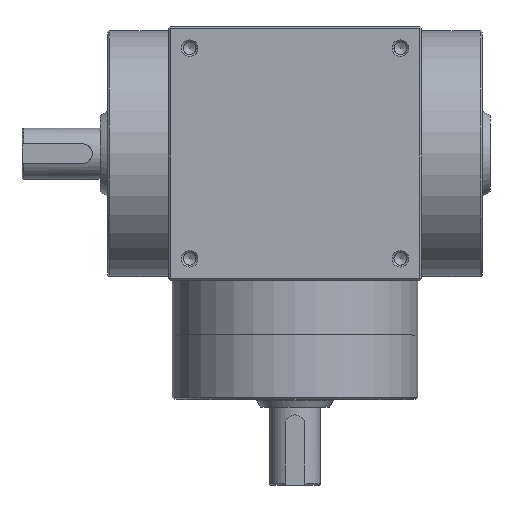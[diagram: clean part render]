
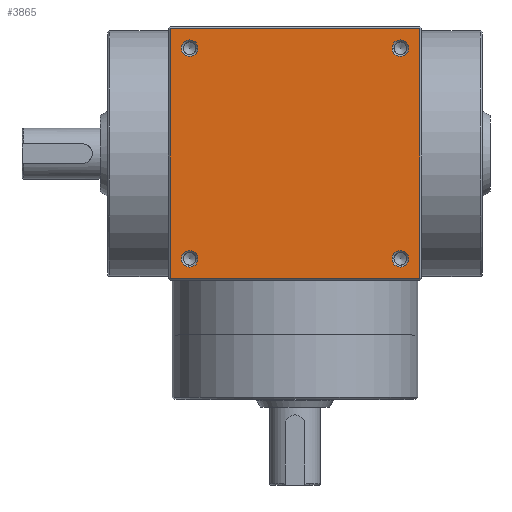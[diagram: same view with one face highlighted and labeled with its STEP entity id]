
A CAD part, top view. The second image highlights one B-rep face of the part: STEP entity #3865.
In plain terms, the highlighted planar face has unit normal (0, 0, 1).
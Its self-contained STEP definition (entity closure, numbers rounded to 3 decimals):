
#3778=CARTESIAN_POINT('',(-24.879,-27.0,65.0));
#3779=VERTEX_POINT('',#3778);
#3780=CARTESIAN_POINT('',(-27.,-27.0,65.0));
#3781=DIRECTION('',(0.0,0.0,1.0));
#3782=DIRECTION('',(-1.0,0.0,0.0));
#3783=AXIS2_PLACEMENT_3D('',#3780,#3781,#3782);
#3784=CIRCLE('',#3783,2.121);
#3785=EDGE_CURVE('',#3779,#3779,#3784,.T.);
#3790=CARTESIAN_POINT('',(0.,0.0,65.0));
#3791=DIRECTION('',(0.0,0.0,1.0));
#3792=DIRECTION('',(1.0,0.0,0.0));
#3793=AXIS2_PLACEMENT_3D('',#3790,#3791,#3792);
#3794=PLANE('',#3793);
#3795=CARTESIAN_POINT('',(-32.0,-32.0,65.0));
#3796=VERTEX_POINT('',#3795);
#3797=CARTESIAN_POINT('',(-32.0,32.,65.0));
#3798=VERTEX_POINT('',#3797);
#3799=CARTESIAN_POINT('',(-32.0,-32.0,65.0));
#3800=DIRECTION('',(0.0,1.0,0.0));
#3801=VECTOR('',#3800,64.0);
#3802=LINE('',#3799,#3801);
#3803=EDGE_CURVE('',#3796,#3798,#3802,.T.);
#3804=ORIENTED_EDGE('',*,*,#3803,.F.);
#3805=CARTESIAN_POINT('',(32.0,-32.,65.0));
#3806=VERTEX_POINT('',#3805);
#3807=CARTESIAN_POINT('',(32.0,-32.,65.0));
#3808=DIRECTION('',(-1.0,0.0,0.0));
#3809=VECTOR('',#3808,64.0);
#3810=LINE('',#3807,#3809);
#3811=EDGE_CURVE('',#3806,#3796,#3810,.T.);
#3812=ORIENTED_EDGE('',*,*,#3811,.F.);
#3813=CARTESIAN_POINT('',(32.0,32.0,65.0));
#3814=VERTEX_POINT('',#3813);
#3815=CARTESIAN_POINT('',(32.0,32.0,65.0));
#3816=DIRECTION('',(0.0,-1.0,0.0));
#3817=VECTOR('',#3816,64.0);
#3818=LINE('',#3815,#3817);
#3819=EDGE_CURVE('',#3814,#3806,#3818,.T.);
#3820=ORIENTED_EDGE('',*,*,#3819,.F.);
#3821=CARTESIAN_POINT('',(-32.0,32.0,65.0));
#3822=DIRECTION('',(1.0,0.0,0.0));
#3823=VECTOR('',#3822,64.0);
#3824=LINE('',#3821,#3823);
#3825=EDGE_CURVE('',#3798,#3814,#3824,.T.);
#3826=ORIENTED_EDGE('',*,*,#3825,.F.);
#3827=EDGE_LOOP('',(#3804,#3812,#3820,#3826));
#3828=FACE_OUTER_BOUND('',#3827,.T.);
#3829=CARTESIAN_POINT('',(29.121,-27.0,65.0));
#3830=VERTEX_POINT('',#3829);
#3831=CARTESIAN_POINT('',(27.,-27.0,65.0));
#3832=DIRECTION('',(0.0,0.0,1.0));
#3833=DIRECTION('',(-1.0,0.0,0.0));
#3834=AXIS2_PLACEMENT_3D('',#3831,#3832,#3833);
#3835=CIRCLE('',#3834,2.121);
#3836=EDGE_CURVE('',#3830,#3830,#3835,.T.);
#3837=ORIENTED_EDGE('',*,*,#3836,.F.);
#3838=EDGE_LOOP('',(#3837));
#3839=FACE_BOUND('',#3838,.T.);
#3840=CARTESIAN_POINT('',(-24.879,27.0,65.0));
#3841=VERTEX_POINT('',#3840);
#3842=CARTESIAN_POINT('',(-27.,27.0,65.0));
#3843=DIRECTION('',(0.0,0.0,1.0));
#3844=DIRECTION('',(-1.0,0.0,0.0));
#3845=AXIS2_PLACEMENT_3D('',#3842,#3843,#3844);
#3846=CIRCLE('',#3845,2.121);
#3847=EDGE_CURVE('',#3841,#3841,#3846,.T.);
#3848=ORIENTED_EDGE('',*,*,#3847,.F.);
#3849=EDGE_LOOP('',(#3848));
#3850=FACE_BOUND('',#3849,.T.);
#3851=CARTESIAN_POINT('',(29.121,27.0,65.0));
#3852=VERTEX_POINT('',#3851);
#3853=CARTESIAN_POINT('',(27.0,27.0,65.0));
#3854=DIRECTION('',(0.0,0.0,1.0));
#3855=DIRECTION('',(-1.0,0.0,0.0));
#3856=AXIS2_PLACEMENT_3D('',#3853,#3854,#3855);
#3857=CIRCLE('',#3856,2.121);
#3858=EDGE_CURVE('',#3852,#3852,#3857,.T.);
#3859=ORIENTED_EDGE('',*,*,#3858,.F.);
#3860=EDGE_LOOP('',(#3859));
#3861=FACE_BOUND('',#3860,.T.);
#3862=ORIENTED_EDGE('',*,*,#3785,.F.);
#3863=EDGE_LOOP('',(#3862));
#3864=FACE_BOUND('',#3863,.T.);
#3865=ADVANCED_FACE('',(#3828,#3839,#3850,#3861,#3864),#3794,.T.);
